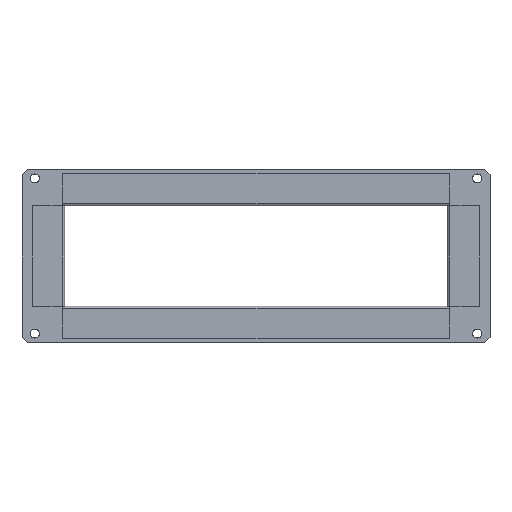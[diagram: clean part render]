
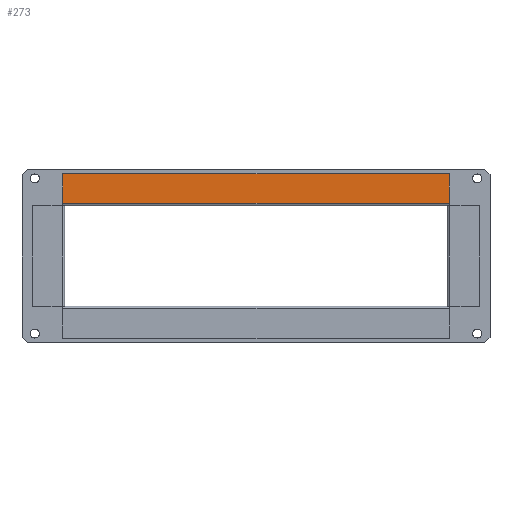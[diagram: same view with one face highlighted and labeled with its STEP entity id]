
A CAD part, top view. The second image highlights one B-rep face of the part: STEP entity #273.
In plain terms, the highlighted planar face has unit normal (0, 0, 1) as drawn and (0, 0, -1) by its records, which use the part's own axes.
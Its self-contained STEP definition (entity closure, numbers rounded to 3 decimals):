
#215 = CARTESIAN_POINT ( 'NONE',  ( 150.8, 25., 0. ) ) ;
#273 = ADVANCED_FACE ( 'NONE', ( #4665 ), #2050, .T. ) ;
#542 = CARTESIAN_POINT ( 'NONE',  ( 150.8, 1.8, 0. ) ) ;
#785 = EDGE_CURVE ( 'NONE', #1821, #3215, #6065, .T. ) ;
#938 = EDGE_CURVE ( 'NONE', #4245, #2528, #4186, .T. ) ;
#1222 = CARTESIAN_POINT ( 'NONE',  ( -150.8, 0., 0. ) ) ;
#1293 = LINE ( 'NONE', #4797, #3823 ) ;
#1461 = LINE ( 'NONE', #1222, #5284 ) ;
#1507 = VECTOR ( 'NONE', #4452, 1000. ) ;
#1633 = EDGE_CURVE ( 'NONE', #2528, #3215, #1461, .T. ) ;
#1659 = DIRECTION ( 'NONE',  ( -1., 0., 0. ) ) ;
#1667 = CARTESIAN_POINT ( 'NONE',  ( 150.8, 1.8, 0. ) ) ;
#1821 = VERTEX_POINT ( 'NONE', #542 ) ;
#1822 = DIRECTION ( 'NONE',  ( 0., -1., 0. ) ) ;
#2050 = PLANE ( 'NONE',  #5059 ) ;
#2185 = EDGE_CURVE ( 'NONE', #4245, #1821, #1293, .T. ) ;
#2528 = VERTEX_POINT ( 'NONE', #4222 ) ;
#3215 = VERTEX_POINT ( 'NONE', #5859 ) ;
#3592 = ORIENTED_EDGE ( 'NONE', *, *, #785, .T. ) ;
#3593 = EDGE_LOOP ( 'NONE', ( #4905, #3979, #3899, #3592 ) ) ;
#3823 = VECTOR ( 'NONE', #4516, 1000. ) ;
#3899 = ORIENTED_EDGE ( 'NONE', *, *, #2185, .T. ) ;
#3979 = ORIENTED_EDGE ( 'NONE', *, *, #938, .F. ) ;
#3992 = CARTESIAN_POINT ( 'NONE',  ( 150.8, 25., 0. ) ) ;
#4182 = DIRECTION ( 'NONE',  ( -1., 0., 0. ) ) ;
#4186 = LINE ( 'NONE', #215, #1507 ) ;
#4222 = CARTESIAN_POINT ( 'NONE',  ( -150.8, 25., 0. ) ) ;
#4245 = VERTEX_POINT ( 'NONE', #3992 ) ;
#4452 = DIRECTION ( 'NONE',  ( -1., 0., 0. ) ) ;
#4516 = DIRECTION ( 'NONE',  ( 0., -1., 0. ) ) ;
#4665 = FACE_OUTER_BOUND ( 'NONE', #3593, .T. ) ;
#4797 = CARTESIAN_POINT ( 'NONE',  ( 150.8, 0., 0. ) ) ;
#4905 = ORIENTED_EDGE ( 'NONE', *, *, #1633, .F. ) ;
#5059 = AXIS2_PLACEMENT_3D ( 'NONE', #5449, #6016, #4182 ) ;
#5110 = VECTOR ( 'NONE', #1659, 1000. ) ;
#5284 = VECTOR ( 'NONE', #1822, 1000. ) ;
#5449 = CARTESIAN_POINT ( 'NONE',  ( 150.8, 0., 0. ) ) ;
#5859 = CARTESIAN_POINT ( 'NONE',  ( -150.8, 1.8, 0. ) ) ;
#6016 = DIRECTION ( 'NONE',  ( 0., 0., -1. ) ) ;
#6065 = LINE ( 'NONE', #1667, #5110 ) ;
